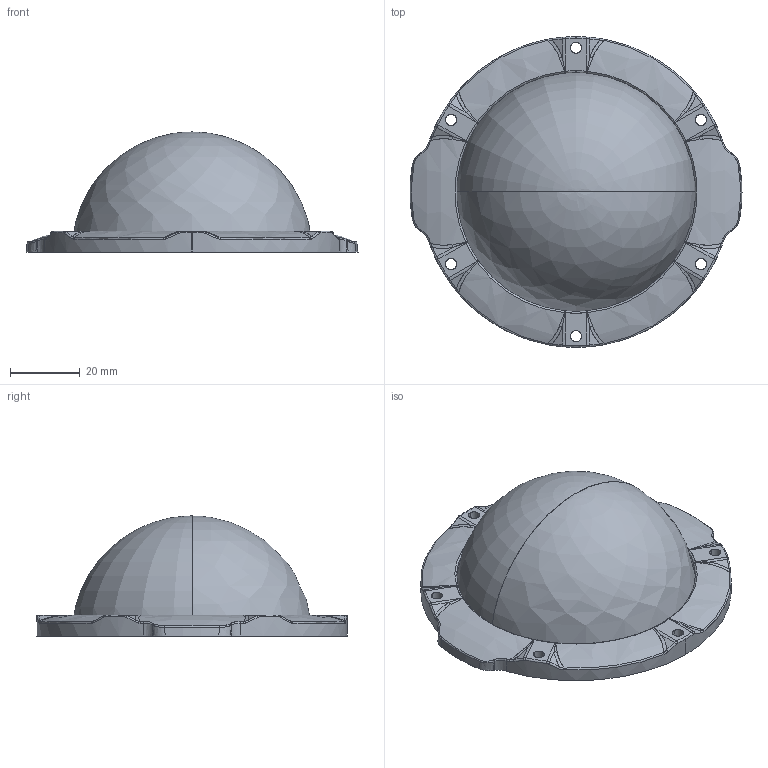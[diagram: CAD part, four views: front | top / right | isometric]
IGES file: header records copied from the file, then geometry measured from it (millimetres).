
Start section: SolidWorks IGES file using analytic representation for surfaces
Global section: file name: C:\Users\Jonathan\Dropbox\BR-Engineering\PROJECTS\WTE3\MODELS\RELEASES\PUBLIC\WTE3-ASM-DOME-R1.IGS; native system: SolidWorks 2016; preprocessor: SolidWorks 2016; author: Jonathan; date: 171228.123937; units: inch
Bounding box: 95 x 88.9 x 34.35 mm (x, y, z)
Surface area: 24530.8 mm2 (no closed solid volume)
Topology: 0 solids, 0 shells, 252 faces, 2336 edges, 2334 vertices
Faces by surface type: bspline 205, revolution 47
